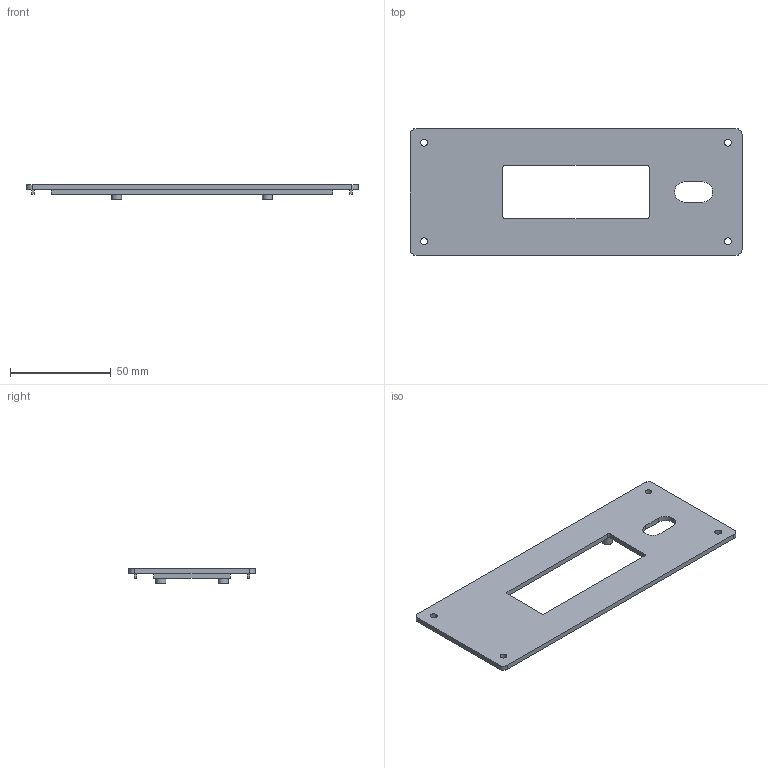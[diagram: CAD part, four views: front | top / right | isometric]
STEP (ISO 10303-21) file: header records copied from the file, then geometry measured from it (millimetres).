
FILE_DESCRIPTION(('FreeCAD Model'),'2;1');
FILE_NAME('Open CASCADE Shape Model','2026-11-18T13:30:38',('FreeCAD'),( 'FreeCAD'),'Open CASCADE STEP processor 8.0','FreeCAD','Unknown');
FILE_SCHEMA(('AUTOMOTIVE_DESIGN { 1 0 10303 214 1 1 1 1 }'));
Length unit declared in the file: millimetre
Products named in the file (1): Open CASCADE STEP translator 8.0 2
Bounding box: 165 x 63 x 7 mm (x, y, z)
Volume: 21868.7 mm3; surface area: 20248.3 mm2
Topology: 1 solids, 1 shells, 62 faces, 144 edges, 96 vertices
Faces by surface type: plane 40, cylinder 22
Full cylindrical faces by diameter (mm): 2.1 x4, 3.4 x4, 5 x4
Entity records: 1806 total; most frequent: DIRECTION 314, CARTESIAN_POINT 303, ORIENTED_EDGE 288, EDGE_CURVE 144, AXIS2_PLACEMENT_3D 107, LINE 100, VECTOR 100, VERTEX_POINT 96
